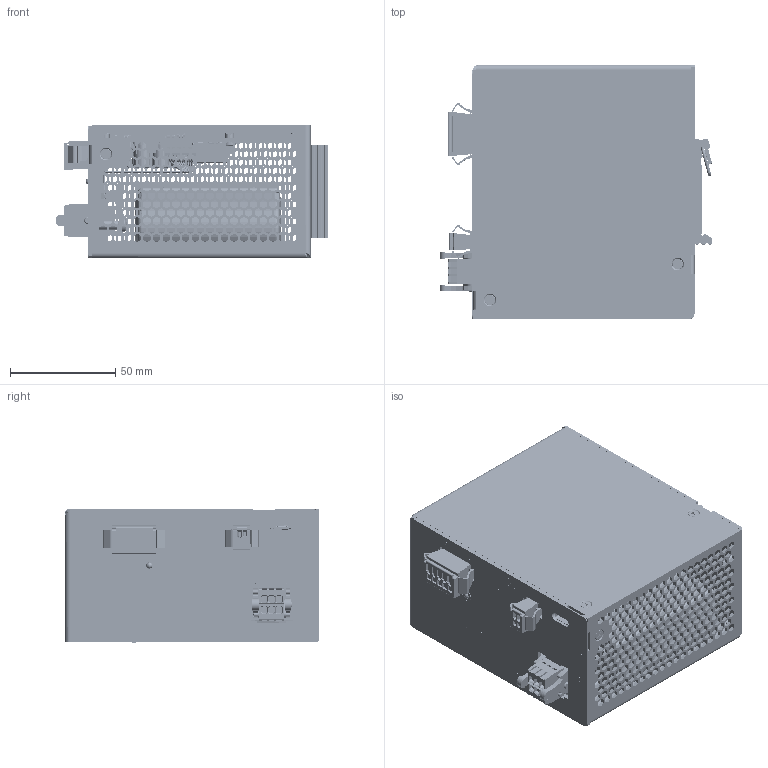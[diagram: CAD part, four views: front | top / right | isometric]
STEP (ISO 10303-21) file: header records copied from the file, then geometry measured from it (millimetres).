
FILE_DESCRIPTION (( 'STEP AP214' ), '1' );
FILE_NAME ('UPSI-2406R2DP3MB_Assembly-total.STEP', '2025-07-14T09:56:42', ( '' ), ( '' ), 'SwSTEP 2.0', 'SolidWorks 2025', '' );
FILE_SCHEMA (( 'AUTOMOTIVE_DESIGN' ));
Length unit declared in the file: millimetre
Products named in the file (24): Frontlabel_UPSI2406R2DPxMB_F0-0022-25-28_REV-2; BSO-M3-14ZI_Blind-threaded-standoff; Mylar-insulating-foil_UPSI-2406R2DPx_REV-1.0_F5-0074; UPSI-2406DPxR2_Case-front_REV-1.1.1_F3-0013; Mounting-bow_REV-1.0_F5-0065; Ovalheadscrew+Washer-M3x4_F5-0083; DIN-Rail_holder_middle_44mm_REV-2.0_F1-0251; UPSI-2406DPxR2_Case-back_REV-1.1.1_F3-0013; F-M3-1_press-in-nut; BSO-M3-6ZI_Blind-threaded-standoff; 734-105_037-000_in-out-plug_F4-0012; BP-LFP-1325S.1; Cable_(for_F-0039_Ribbon-flat-cable); Ribbon-flat-cable_(for-F6-0020)_F2-0039; Countersunkscrew-M3x4; UPSI-2406DPxR2_v11.1.0-CAD; 8-215083-0_Micro-MaTch-Male-Connector_10-pole_1.27mm; 713-1103_037-000_modbus-plug_F4-0013; Countersunkscrew-M3x6; Modbus-modul_REV-1.0_F6-0020; UPSI-2406R2DP3MB_Assembly-total; Ovalheadscrew-M3x5; 733-102_037-000_relay-plug_F4-0011; LED_(F2-0023)
Assembly tree (46 placements, depth 3):
  UPSI-2406R2DP3MB_Assembly-total
    UPSI-2406DPxR2_Case-front_REV-1.1.1_F3-0013
    UPSI-2406DPxR2_Case-back_REV-1.1.1_F3-0013
    UPSI-2406DPxR2_v11.1.0-CAD
    Mylar-insulating-foil_UPSI-2406R2DPx_REV-1.0_F5-0074
    BP-LFP-1325S.1
    Mounting-bow_REV-1.0_F5-0065
    LED_(F2-0023)
    734-105_037-000_in-out-plug_F4-0012
    733-102_037-000_relay-plug_F4-0011
    Modbus-modul_REV-1.0_F6-0020
    Ribbon-flat-cable_(for-F6-0020)_F2-0039
      8-215083-0_Micro-MaTch-Male-Connector_10-pole_1.27mm  x2
      Cable_(for_F-0039_Ribbon-flat-cable)
    713-1103_037-000_modbus-plug_F4-0013
    DIN-Rail_holder_middle_44mm_REV-2.0_F1-0251
    BSO-M3-6ZI_Blind-threaded-standoff  x8
    BSO-M3-14ZI_Blind-threaded-standoff  x2
    Ovalheadscrew-M3x5  x6
    Countersunkscrew-M3x4  x6
    Countersunkscrew-M3x6  x3
    F-M3-1_press-in-nut  x2
    Ovalheadscrew+Washer-M3x4_F5-0083  x2
    Frontlabel_UPSI2406R2DPxMB_F0-0022-25-28_REV-2
Bounding box: 129.4 x 120.5 x 63.09 mm (x, y, z)
Volume: 348659.3 mm3; surface area: 224258.6 mm2
Topology: 236 solids, 242 shells, 20809 faces, 57815 edges, 37639 vertices
Faces by surface type: plane 15039, cylinder 3303, bspline 1514, torus 597, cone 230, sphere 126
Full cylindrical faces by diameter (mm): 0.8 x1
Entity records: 785314 total; most frequent: CARTESIAN_POINT 178949, ORIENTED_EDGE 107166, DIRECTION 91461, EDGE_CURVE 53583, LINE 42449, VECTOR 42449, VERTEX_POINT 35054, AXIS2_PLACEMENT_3D 24506
